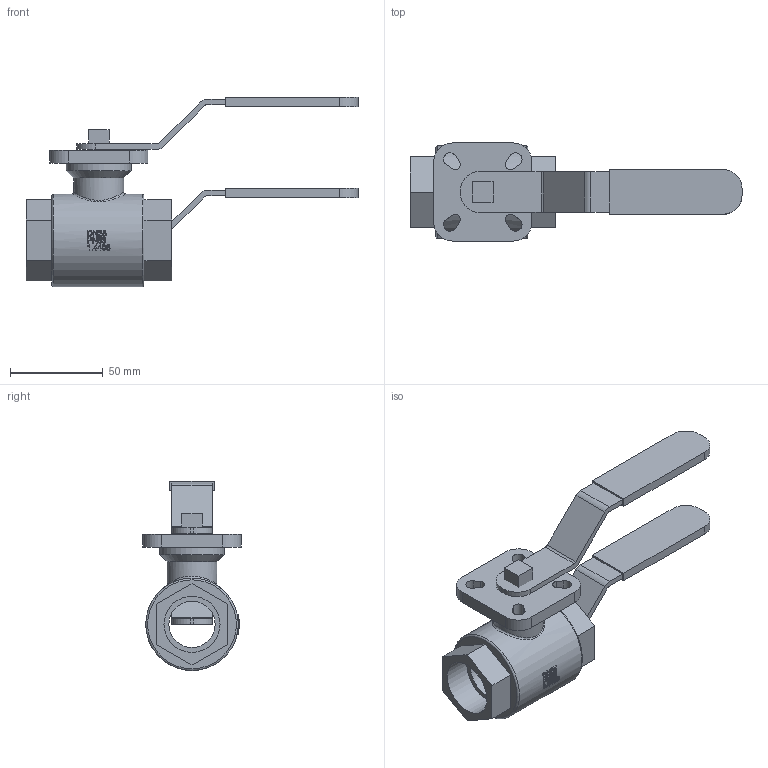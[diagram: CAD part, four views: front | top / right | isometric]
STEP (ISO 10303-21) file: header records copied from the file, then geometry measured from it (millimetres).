
FILE_DESCRIPTION( ( 'Unknown' ), '1' );
FILE_NAME( 'J:/Muud/ROOTSI BPS 3D vidinad/Kuulkraanid/Roostevaba kuulkraanid/Ball valve BPS 2411/Ball valve with hand lever BPS/STEP formaat/BPS 2411025 ball valve DN25.stp', 'Unknown', ( 'Unknown' ), ( 'Unknown' ), 'PSStep 10.1', 'Unknown', ' ' );
FILE_SCHEMA( ( 'AUTOMOTIVE_DESIGN { 1 0 10303 214 1 1 1 1 }' ) );
Length unit declared in the file: millimetre
Products named in the file (3): Assem1; BPS 2411025 ball valve DN25; Hand lever for ball valve DN25-32 BPS 2411
Bounding box: 179.35 x 53 x 102.2 mm (x, y, z)
Volume: 267320.8 mm3; surface area: 75623.2 mm2
Topology: 4 solids, 4 shells, 414 faces, 1034 edges, 688 vertices
Faces by surface type: plane 226, cylinder 98, bspline 84, torus 4, cone 2
Full cylindrical faces by diameter (mm): 3 x2, 25 x2, 27 x2, 30.291 x4, 35 x2, 50 x2
Entity records: 11480 total; most frequent: CARTESIAN_POINT 5547, ORIENTED_EDGE 996, DIRECTION 586, EDGE_CURVE 498, VERTEX_POINT 341, B_SPLINE_CURVE_WITH_KNOTS 303, EDGE_LOOP 265, AXIS2_PLACEMENT_3D 223
